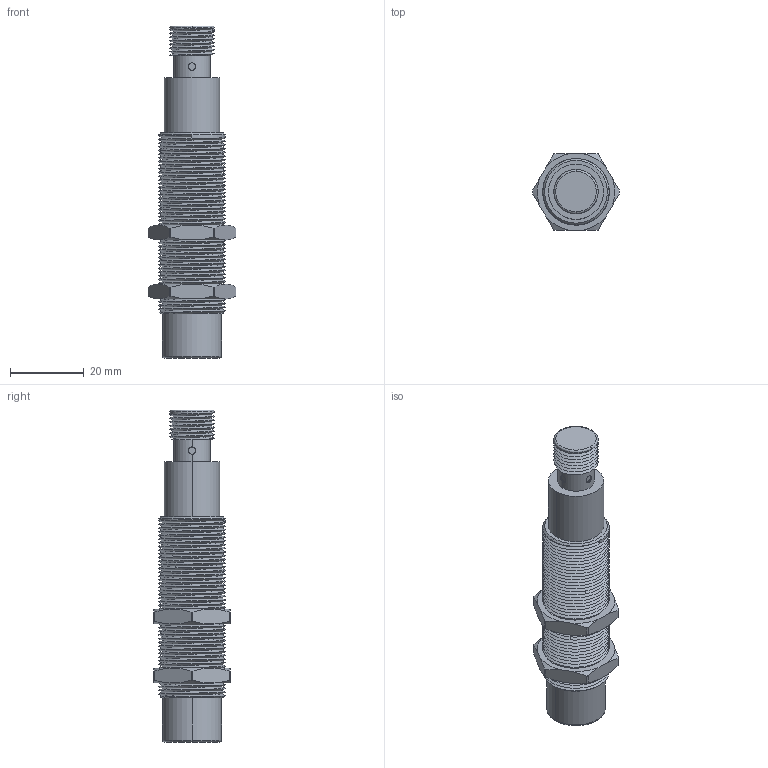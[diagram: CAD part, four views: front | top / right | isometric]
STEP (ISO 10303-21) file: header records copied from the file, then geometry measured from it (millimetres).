
FILE_DESCRIPTION((''),'2;1');
FILE_NAME('M18_MNL_FQP_ES12_ASM','2019-07-17T',('Administrator'),(''),'PRO/ENGINEER BY PARAMETRIC TECHNOLOGY CORPORATION, 2012130','PRO/ENGINEER BY PARAMETRIC TECHNOLOGY CORPORATION, 2012130','');
FILE_SCHEMA(('AUTOMOTIVE_DESIGN { 1 0 10303 214 1 1 1 1 }'));
Length unit declared in the file: millimetre
Products named in the file (3): M18_MNL_FQP_ES12; M18_LM; M18_MNL_FQP_ES12_ASM
Assembly tree (3 placements, depth 2):
  M18_MNL_FQP_ES12_ASM
    M18_MNL_FQP_ES12
    M18_LM  x2
Bounding box: 23.84 x 20.78 x 90 mm (x, y, z)
Volume: 18722.2 mm3; surface area: 9520.9 mm2
Topology: 3 solids, 3 shells, 145 faces, 475 edges, 342 vertices
Faces by surface type: cylinder 46, bspline 38, plane 30, cone 27, torus 4
Entity records: 17117 total; most frequent: CARTESIAN_POINT 13386, ORIENTED_EDGE 730, EDGE_CURVE 365, DIRECTION 346, VERTEX_POINT 269, PRESENTATION_STYLE_ASSIGNMENT 259, STYLED_ITEM 256, CURVE_STYLE 255
